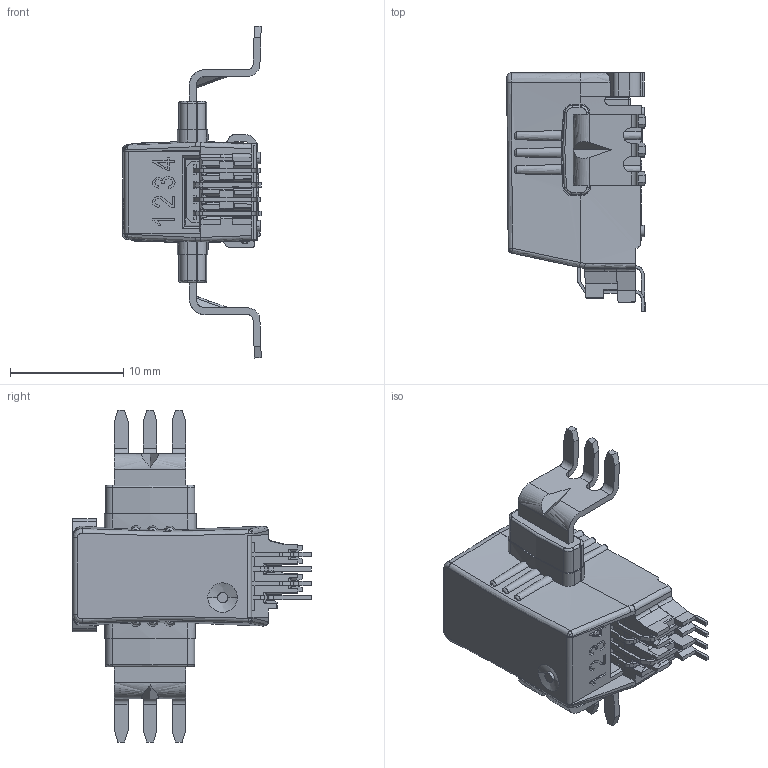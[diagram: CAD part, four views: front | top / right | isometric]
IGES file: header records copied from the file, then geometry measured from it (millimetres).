
Start section: Elysium IGES Interface
Global section: file name: U:\PROJET 1.5\BLACKBOX 210813\HLSR_xx_SM.igs; native system: Creo Elements/Direct Modeling 17.0E  05-Feb-2012; preprocessor: Creo Element/Direct IGES_3D V2.2; author: Unknown; organization: Unknown; date: 20130821.102805; units: millimetre
Bounding box: 12.22 x 21.02 x 29.26 mm (x, y, z)
Volume: 1450.6 mm3; surface area: 2846.5 mm2
Topology: 1 solids, 3 shells, 1367 faces, 3780 edges, 2462 vertices
Faces by surface type: bspline 1367
